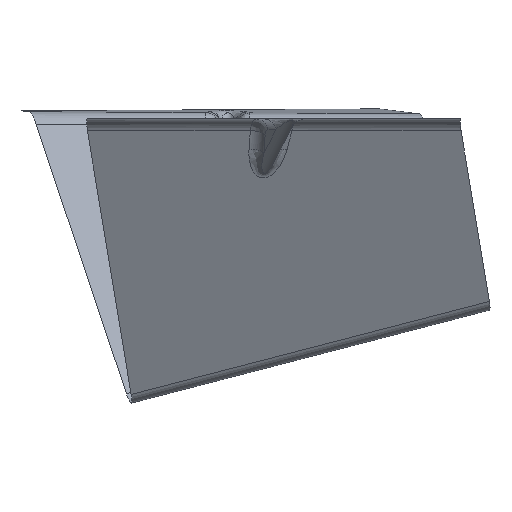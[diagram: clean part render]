
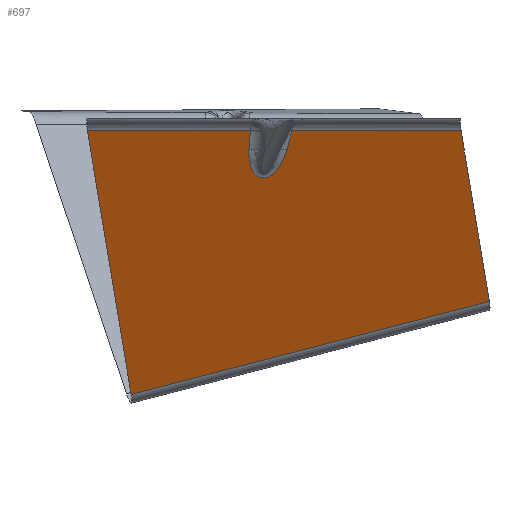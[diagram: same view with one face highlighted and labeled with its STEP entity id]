
A CAD part, left-side view. The second image highlights one B-rep face of the part: STEP entity #697.
In plain terms, the highlighted planar face has unit normal (-0.83, -0.249, -0.5).
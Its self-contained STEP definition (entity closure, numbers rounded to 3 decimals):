
#257=CARTESIAN_POINT('Vertex',(-78.194,6.31,-1.8)) ;
#280=CARTESIAN_POINT('Line Origine',(-63.104,8.083,-27.718)) ;
#284=CARTESIAN_POINT('Vertex',(-75.365,6.643,-6.66)) ;
#576=CARTESIAN_POINT('Control Point',(-72.308,-3.545,-6.66)) ;
#577=CARTESIAN_POINT('Control Point',(-72.118,-3.449,-7.024)) ;
#578=CARTESIAN_POINT('Control Point',(-71.931,-3.343,-7.387)) ;
#579=CARTESIAN_POINT('Control Point',(-71.747,-3.227,-7.75)) ;
#580=CARTESIAN_POINT('Control Point',(-71.392,-2.976,-8.463)) ;
#581=CARTESIAN_POINT('Control Point',(-71.054,-2.681,-9.171)) ;
#582=CARTESIAN_POINT('Control Point',(-70.892,-2.524,-9.518)) ;
#583=CARTESIAN_POINT('Control Point',(-70.593,-2.203,-10.174)) ;
#584=CARTESIAN_POINT('Control Point',(-70.314,-1.834,-10.82)) ;
#585=CARTESIAN_POINT('Control Point',(-70.188,-1.647,-11.123)) ;
#586=CARTESIAN_POINT('Control Point',(-69.965,-1.276,-11.678)) ;
#587=CARTESIAN_POINT('Control Point',(-69.767,-0.854,-12.216)) ;
#588=CARTESIAN_POINT('Control Point',(-69.683,-0.648,-12.458)) ;
#589=CARTESIAN_POINT('Control Point',(-69.545,-0.254,-12.883)) ;
#590=CARTESIAN_POINT('Control Point',(-69.439,0.194,-13.282)) ;
#591=CARTESIAN_POINT('Control Point',(-69.399,0.404,-13.452)) ;
#592=CARTESIAN_POINT('Control Point',(-69.346,0.797,-13.736)) ;
#593=CARTESIAN_POINT('Control Point',(-69.33,1.236,-13.981)) ;
#594=CARTESIAN_POINT('Control Point',(-69.331,1.434,-14.078)) ;
#595=CARTESIAN_POINT('Control Point',(-69.351,1.802,-14.227)) ;
#596=CARTESIAN_POINT('Control Point',(-69.408,2.192,-14.327)) ;
#597=CARTESIAN_POINT('Control Point',(-69.441,2.366,-14.36)) ;
#598=CARTESIAN_POINT('Control Point',(-69.522,2.716,-14.4)) ;
#599=CARTESIAN_POINT('Control Point',(-69.633,3.062,-14.388)) ;
#600=CARTESIAN_POINT('Control Point',(-69.695,3.232,-14.368)) ;
#601=CARTESIAN_POINT('Control Point',(-69.845,3.59,-14.298)) ;
#602=CARTESIAN_POINT('Control Point',(-70.015,3.913,-14.178)) ;
#603=CARTESIAN_POINT('Control Point',(-70.111,4.078,-14.1)) ;
#604=CARTESIAN_POINT('Control Point',(-70.324,4.409,-13.911)) ;
#605=CARTESIAN_POINT('Control Point',(-70.545,4.694,-13.687)) ;
#606=CARTESIAN_POINT('Control Point',(-70.664,4.834,-13.559)) ;
#607=CARTESIAN_POINT('Control Point',(-70.936,5.13,-13.254)) ;
#608=CARTESIAN_POINT('Control Point',(-71.208,5.376,-12.926)) ;
#609=CARTESIAN_POINT('Control Point',(-71.359,5.501,-12.737)) ;
#610=CARTESIAN_POINT('Control Point',(-71.705,5.762,-12.293)) ;
#611=CARTESIAN_POINT('Control Point',(-72.046,5.97,-11.832)) ;
#612=CARTESIAN_POINT('Control Point',(-72.236,6.074,-11.567)) ;
#613=CARTESIAN_POINT('Control Point',(-72.665,6.281,-10.959)) ;
#614=CARTESIAN_POINT('Control Point',(-73.084,6.43,-10.337)) ;
#615=CARTESIAN_POINT('Control Point',(-73.316,6.498,-9.986)) ;
#616=CARTESIAN_POINT('Control Point',(-73.827,6.618,-9.199)) ;
#617=CARTESIAN_POINT('Control Point',(-74.323,6.674,-8.403)) ;
#618=CARTESIAN_POINT('Control Point',(-74.593,6.688,-7.962)) ;
#619=CARTESIAN_POINT('Control Point',(-74.909,6.684,-7.437)) ;
#620=CARTESIAN_POINT('Control Point',(-75.218,6.658,-6.911)) ;
#621=CARTESIAN_POINT('Control Point',(-75.267,6.654,-6.827)) ;
#622=CARTESIAN_POINT('Control Point',(-75.316,6.648,-6.744)) ;
#623=CARTESIAN_POINT('Control Point',(-75.365,6.643,-6.66)) ;
#624=CARTESIAN_POINT('Vertex',(-72.308,-3.545,-6.66)) ;
#642=CARTESIAN_POINT('Axis2P3D Location',(-35.179,-10.554,-64.769)) ;
#647=CARTESIAN_POINT('Line Origine',(-73.581,-4.185,-4.23)) ;
#651=CARTESIAN_POINT('Vertex',(-74.854,-4.825,-1.8)) ;
#654=CARTESIAN_POINT('Line Origine',(-84.732,28.102,-1.8)) ;
#658=CARTESIAN_POINT('Vertex',(-91.269,49.893,-1.8)) ;
#661=CARTESIAN_POINT('Line Origine',(-68.266,44.044,-37.052)) ;
#665=CARTESIAN_POINT('Vertex',(-45.262,38.196,-72.305)) ;
#668=CARTESIAN_POINT('Line Origine',(-38.381,-9.74,-59.862)) ;
#672=CARTESIAN_POINT('Vertex',(-31.5,-57.675,-47.42)) ;
#675=CARTESIAN_POINT('Line Origine',(-46.385,-53.891,-24.61)) ;
#679=CARTESIAN_POINT('Vertex',(-61.269,-50.107,-1.8)) ;
#682=CARTESIAN_POINT('Line Origine',(-68.062,-27.466,-1.8)) ;
#281=DIRECTION('Vector Direction',(0.502,0.059,-0.863)) ;
#643=DIRECTION('Axis2P3D Direction',(0.83,0.249,0.5)) ;
#644=DIRECTION('Axis2P3D XDirection',(0.541,-0.138,-0.83)) ;
#648=DIRECTION('Vector Direction',(-0.452,-0.227,0.863)) ;
#655=DIRECTION('Vector Direction',(0.287,-0.958,0.)) ;
#662=DIRECTION('Vector Direction',(0.541,-0.138,-0.83)) ;
#669=DIRECTION('Vector Direction',(0.138,-0.959,0.249)) ;
#676=DIRECTION('Vector Direction',(-0.541,0.138,0.83)) ;
#683=DIRECTION('Vector Direction',(0.287,-0.958,0.)) ;
#645=AXIS2_PLACEMENT_3D('Plane Axis2P3D',#642,#643,#644) ;
#688=ORIENTED_EDGE('',*,*,#653,.T.) ;
#689=ORIENTED_EDGE('',*,*,#626,.T.) ;
#690=ORIENTED_EDGE('',*,*,#286,.T.) ;
#691=ORIENTED_EDGE('',*,*,#660,.F.) ;
#692=ORIENTED_EDGE('',*,*,#667,.T.) ;
#693=ORIENTED_EDGE('',*,*,#674,.T.) ;
#694=ORIENTED_EDGE('',*,*,#681,.T.) ;
#695=ORIENTED_EDGE('',*,*,#686,.F.) ;
#282=VECTOR('Line Direction',#281,1.) ;
#649=VECTOR('Line Direction',#648,1.) ;
#656=VECTOR('Line Direction',#655,1.) ;
#663=VECTOR('Line Direction',#662,1.) ;
#670=VECTOR('Line Direction',#669,1.) ;
#677=VECTOR('Line Direction',#676,1.) ;
#684=VECTOR('Line Direction',#683,1.) ;
#697=ADVANCED_FACE('Extract.1',(#696),#646,.F.) ;
#575=B_SPLINE_CURVE_WITH_KNOTS('',5,(#576,#577,#578,#579,#580,#581,#582,#583,#584,#585,#586,#587,#588,#589,#590,#591,#592,#593,#594,#595,#596,#597,#598,#599,#600,#601,#602,#603,#604,#605,#606,#607,#608,#609,#610,#611,#612,#613,#614,#615,#616,#617,#618,#619,#620,#621,#622,#623),.UNSPECIFIED.,.F.,.U.,(6,3,3,3,3,3,3,3,3,3,3,3,3,3,3,6),(19.122,21.94,24.669,27.13,29.211,30.865,32.118,33.079,34.047,35.195,36.529,38.226,40.423,43.22,46.647,47.294),.UNSPECIFIED.) ;
#286=EDGE_CURVE('',#285,#258,#283,.F.) ;
#626=EDGE_CURVE('',#625,#285,#575,.T.) ;
#653=EDGE_CURVE('',#652,#625,#650,.F.) ;
#660=EDGE_CURVE('',#659,#258,#657,.T.) ;
#667=EDGE_CURVE('',#659,#666,#664,.T.) ;
#674=EDGE_CURVE('',#666,#673,#671,.T.) ;
#681=EDGE_CURVE('',#673,#680,#678,.T.) ;
#686=EDGE_CURVE('',#652,#680,#685,.T.) ;
#687=EDGE_LOOP('',(#688,#689,#690,#691,#692,#693,#694,#695)) ;
#696=FACE_OUTER_BOUND('',#687,.T.) ;
#283=LINE('Line',#280,#282) ;
#650=LINE('Line',#647,#649) ;
#657=LINE('Line',#654,#656) ;
#664=LINE('Line',#661,#663) ;
#671=LINE('Line',#668,#670) ;
#678=LINE('Line',#675,#677) ;
#685=LINE('Line',#682,#684) ;
#646=PLANE('',#645) ;
#258=VERTEX_POINT('',#257) ;
#285=VERTEX_POINT('',#284) ;
#625=VERTEX_POINT('',#624) ;
#652=VERTEX_POINT('',#651) ;
#659=VERTEX_POINT('',#658) ;
#666=VERTEX_POINT('',#665) ;
#673=VERTEX_POINT('',#672) ;
#680=VERTEX_POINT('',#679) ;
